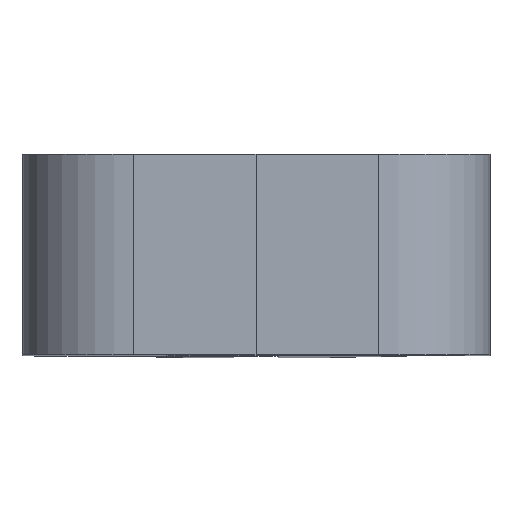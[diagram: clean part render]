
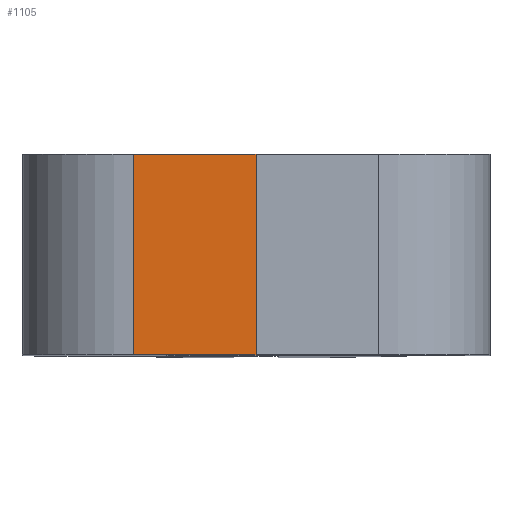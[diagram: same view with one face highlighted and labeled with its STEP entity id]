
A CAD part, top view. The second image highlights one B-rep face of the part: STEP entity #1105.
In plain terms, the highlighted planar face has unit normal (0, 0, 1).
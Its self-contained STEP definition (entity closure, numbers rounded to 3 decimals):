
#42=PLANE('',#1202);
#100=FACE_OUTER_BOUND('',#168,.T.);
#168=EDGE_LOOP('',(#863,#864,#865,#866));
#283=LINE('',#1798,#372);
#292=LINE('',#1854,#381);
#293=LINE('',#1857,#382);
#298=LINE('',#1866,#387);
#372=VECTOR('',#1368,10.);
#381=VECTOR('',#1409,10.);
#382=VECTOR('',#1412,10.);
#387=VECTOR('',#1421,10.);
#493=VERTEX_POINT('',#1795);
#494=VERTEX_POINT('',#1797);
#504=VERTEX_POINT('',#1850);
#506=VERTEX_POINT('',#1856);
#613=EDGE_CURVE('',#493,#494,#283,.T.);
#632=EDGE_CURVE('',#494,#504,#292,.T.);
#633=EDGE_CURVE('',#504,#506,#293,.T.);
#639=EDGE_CURVE('',#506,#493,#298,.T.);
#863=ORIENTED_EDGE('',*,*,#632,.F.);
#864=ORIENTED_EDGE('',*,*,#613,.F.);
#865=ORIENTED_EDGE('',*,*,#639,.F.);
#866=ORIENTED_EDGE('',*,*,#633,.F.);
#1105=ADVANCED_FACE('',(#100),#42,.T.);
#1202=AXIS2_PLACEMENT_3D('',#1885,#1432,#1433);
#1368=DIRECTION('',(-1.,0.,0.));
#1409=DIRECTION('',(0.,1.,0.));
#1412=DIRECTION('',(1.,0.,0.));
#1421=DIRECTION('',(0.,-1.,0.));
#1432=DIRECTION('center_axis',(0.,0.,1.));
#1433=DIRECTION('ref_axis',(1.,0.,0.));
#1795=CARTESIAN_POINT('',(0.,0.,40.));
#1797=CARTESIAN_POINT('',(-5.5,0.,40.));
#1798=CARTESIAN_POINT('',(10.5,0.,40.));
#1850=CARTESIAN_POINT('',(-5.5,9.,40.));
#1854=CARTESIAN_POINT('',(-5.5,0.,40.));
#1856=CARTESIAN_POINT('',(0.,9.,40.));
#1857=CARTESIAN_POINT('',(10.5,9.,40.));
#1866=CARTESIAN_POINT('',(0.,4.5,40.));
#1885=CARTESIAN_POINT('Origin',(-10.5,0.,40.));
